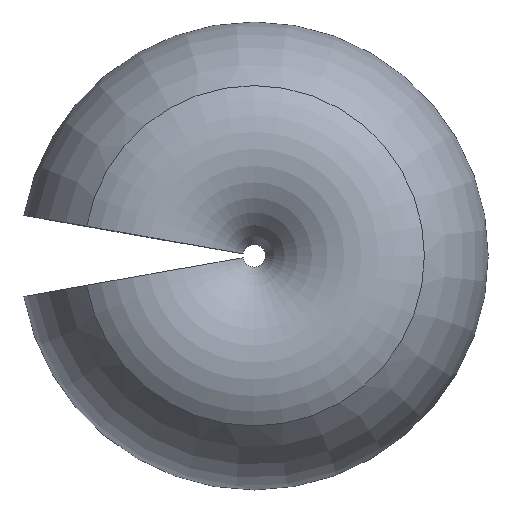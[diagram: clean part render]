
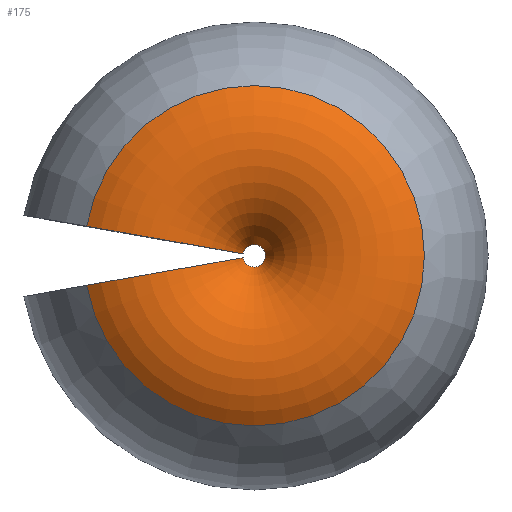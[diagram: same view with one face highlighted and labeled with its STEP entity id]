
A CAD part, top view. The second image highlights one B-rep face of the part: STEP entity #175.
In plain terms, the highlighted toroidal (fillet/blend) face has major radius 1313.6 mm and minor radius 1295 mm.
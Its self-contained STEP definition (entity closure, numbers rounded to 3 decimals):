
#1 = AXIS2_PLACEMENT_3D ( 'NONE', #228, #76, #236 ) ;
#2 = VERTEX_POINT ( 'NONE', #165 ) ;
#6 = CARTESIAN_POINT ( 'NONE',  ( -1293.641, 228.104, 1772.964 ) ) ;
#9 = DIRECTION ( 'NONE',  ( -1., 0., 0. ) ) ;
#36 = AXIS2_PLACEMENT_3D ( 'NONE', #262, #96, #94 ) ;
#46 = ORIENTED_EDGE ( 'NONE', *, *, #246, .T. ) ;
#48 = CARTESIAN_POINT ( 'NONE',  ( -2078.81, 366.55, 2793.438 ) ) ;
#51 = AXIS2_PLACEMENT_3D ( 'NONE', #6, #192, #204 ) ;
#62 = VERTEX_POINT ( 'NONE', #173 ) ;
#69 = AXIS2_PLACEMENT_3D ( 'NONE', #194, #176, #9 ) ;
#72 = EDGE_CURVE ( 'NONE', #100, #2, #73, .T. ) ;
#73 = CIRCLE ( 'NONE', #51, 1295. ) ;
#76 = DIRECTION ( 'NONE',  ( 0., 0., -1. ) ) ;
#94 = DIRECTION ( 'NONE',  ( -1., 0., 0. ) ) ;
#96 = DIRECTION ( 'NONE',  ( 0., 0., -1. ) ) ;
#100 = VERTEX_POINT ( 'NONE', #48 ) ;
#107 = CIRCLE ( 'NONE', #215, 1295. ) ;
#130 = FACE_OUTER_BOUND ( 'NONE', #214, .T. ) ;
#137 = ORIENTED_EDGE ( 'NONE', *, *, #72, .T. ) ;
#142 = EDGE_CURVE ( 'NONE', #62, #271, #107, .T. ) ;
#153 = CARTESIAN_POINT ( 'NONE',  ( -1293.641, -228.104, 1772.964 ) ) ;
#161 = CIRCLE ( 'NONE', #36, 139.928 ) ;
#165 = CARTESIAN_POINT ( 'NONE',  ( -137.802, 24.298, 2320.252 ) ) ;
#167 = DIRECTION ( 'NONE',  ( -0.174, 0.985, 0. ) ) ;
#173 = CARTESIAN_POINT ( 'NONE',  ( -2078.81, -366.55, 2793.438 ) ) ;
#175 = ADVANCED_FACE ( 'NONE', ( #130 ), #227, .T. ) ;
#176 = DIRECTION ( 'NONE',  ( 0., 0., -1. ) ) ;
#179 = ORIENTED_EDGE ( 'NONE', *, *, #264, .F. ) ;
#192 = DIRECTION ( 'NONE',  ( 0.174, 0.985, 0. ) ) ;
#194 = CARTESIAN_POINT ( 'NONE',  ( 0., 0., 2793.438 ) ) ;
#199 = CIRCLE ( 'NONE', #69, 2110.879 ) ;
#204 = DIRECTION ( 'NONE',  ( 0., 0., 1. ) ) ;
#206 = DIRECTION ( 'NONE',  ( 0., 0., 1. ) ) ;
#214 = EDGE_LOOP ( 'NONE', ( #179, #137, #46, #216 ) ) ;
#215 = AXIS2_PLACEMENT_3D ( 'NONE', #153, #167, #206 ) ;
#216 = ORIENTED_EDGE ( 'NONE', *, *, #142, .F. ) ;
#227 = TOROIDAL_SURFACE ( 'NONE', #1, 1313.598, 1295. ) ;
#228 = CARTESIAN_POINT ( 'NONE',  ( 0., 0., 1772.964 ) ) ;
#231 = CARTESIAN_POINT ( 'NONE',  ( -137.802, -24.298, 2320.252 ) ) ;
#236 = DIRECTION ( 'NONE',  ( -1., 0., 0. ) ) ;
#246 = EDGE_CURVE ( 'NONE', #2, #271, #161, .T. ) ;
#262 = CARTESIAN_POINT ( 'NONE',  ( 0., 0., 2320.252 ) ) ;
#264 = EDGE_CURVE ( 'NONE', #100, #62, #199, .T. ) ;
#271 = VERTEX_POINT ( 'NONE', #231 ) ;
